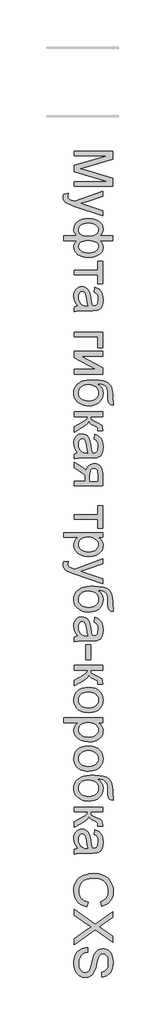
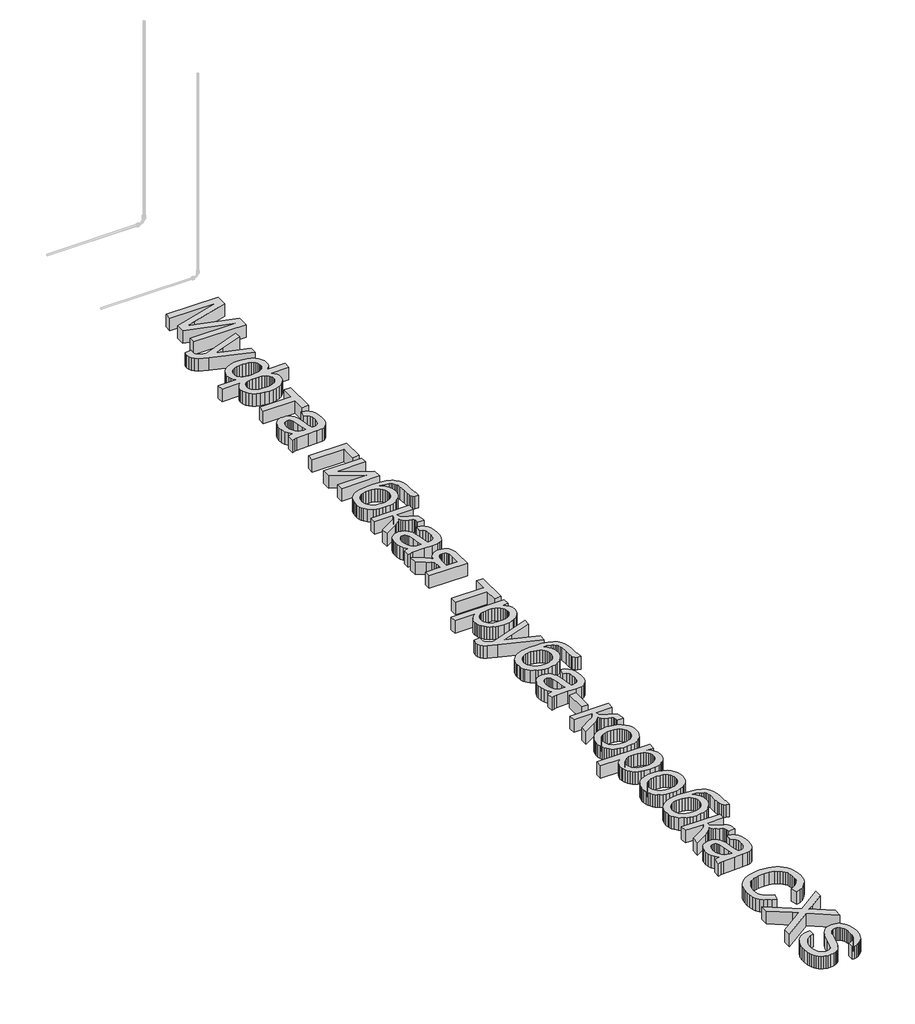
# One storey, part 15 of 33: 1 proxy.
"""IFC4 building model written with IfcOpenShell, lengths in millimetres."""

from ifc_helpers import new_model, si_unit, origin, origin_with_axes, place, context, project, spatial, polyline, outline, extrude, element, save

model = new_model("IFC4")

# Units and contexts
model_context = context("Model", 3, world=origin())
ifc_project = project(units=[si_unit("LENGTHUNIT", "METRE", prefix="MILLI")], contexts=[model_context])

# Site, building, storey
site = spatial("IfcSite", under=ifc_project)
building = spatial("IfcBuilding", under=site)
storey = spatial("IfcBuildingStorey", under=building, Name="Уровень 1", Elevation=0.0)

# Proxy
placement = place(None, origin())
element("IfcBuildingElementProxy", 1, Name="Надпись на модели 1", ObjectType="Надпись на модели 1", at=placement, inside=storey, context=model_context, shape_type="SweptSolid", body=[
    extrude(outline(polyline([(14524.4625724, -566.9517531), (15115.2318032, -566.9517531), (15115.2318032, -694.0190607), (14698.8375724, -814.8844454), (14611.8664186, -839.2594454), (14706.0491109, -865.6536761), (15115.2318032, -984.49983), (15115.2318032, -1111.5671377), (14524.4625724, -1111.5671377), (14524.4625724, -1037.7209838), (15041.3856493, -1037.7209838), (14524.4625724, -889.3075223), (14524.4625724, -789.2113684), (15041.3856493, -640.7979069), (14524.4625724, -640.7979069), (14524.4625724, -566.9517531)])), origin_with_axes(), (0.0, 0.0, 1.0), 150.0),
    extrude(outline(polyline([(14358.3087262, -1231.5671377), (14429.4144955, -1222.3363684), (14422.9241109, -1259.8363684), (14424.9613705, -1279.5599261), (14431.0731493, -1294.8844454), (14440.8267551, -1306.8195415), (14453.7894955, -1316.37483), (14508.1644955, -1336.5671377), (14526.0491109, -1342.3363684), (14958.3087262, -1185.4132915), (14958.3087262, -1263.2979069), (14717.4433416, -1346.5190607), (14621.0971878, -1375.5094454), (14706.1933416, -1404.49983), (14958.3087262, -1490.0286761), (14958.3087262, -1567.3363684), (14514.077957, -1416.3267531), (14417.7318032, -1377.0959838), (14386.9745916, -1357.0118492), (14365.6644955, -1334.2594454), (14353.2245916, -1307.8291569), (14349.077957, -1276.7113684), (14351.3856493, -1255.3291569), (14358.3087262, -1231.5671377)])), origin_with_axes(), (0.0, 0.0, 1.0), 150.0),
    extrude(outline(polyline([(15115.2318032, -1877.7209838), (15115.2318032, -1951.5671377), (14916.6260339, -1951.5671377), (14939.0358897, -1973.9769934), (14954.9193032, -1998.5142531), (14964.3844474, -2025.0707434), (14967.5394955, -2053.5382915), (14963.5280772, -2087.725491), (14951.4938224, -2118.171705), (14931.4367311, -2144.8769333), (14903.3568032, -2167.8411761), (14869.1921397, -2186.2982074), (14830.8808416, -2199.4818011), (14788.4229089, -2207.3919574), (14741.8183416, -2210.0286761), (14693.4875123, -2207.1891329), (14650.0334859, -2198.6705031), (14611.4562623, -2184.4727867), (14577.7558416, -2164.5959838), (14550.4015748, -2140.5004309), (14530.8628128, -2113.6464646), (14519.1395556, -2084.0340848), (14515.2318032, -2051.6632915), (14517.0346878, -2029.2714646), (14522.4433416, -2006.5190607), (14535.8928609, -1981.3147338), (14561.8183416, -1951.5671377), (14358.3087262, -1951.5671377), (14358.3087262, -1877.7209838), (14561.8183416, -1877.7209838), (14541.4818032, -1855.2570415), (14526.9144955, -1830.5575223), (14518.1524762, -1803.6945415), (14515.2318032, -1774.7402146), (14518.9637743, -1742.7570415), (14530.1596878, -1712.8652146), (14548.8195436, -1685.0647338), (14574.9433416, -1659.3555992), (14608.0172599, -1637.7750704), (14647.5274762, -1622.3604069), (14693.4739907, -1613.1116088), (14745.8568032, -1610.0286761), (14791.0461061, -1612.8186401), (14832.4313224, -1621.1885319), (14870.0124522, -1635.1383516), (14903.7894955, -1654.6680992), (14931.6801205, -1678.9123901), (14951.6019955, -1707.0058396), (14963.5551205, -1738.9484478), (14967.5394955, -1774.7402146), (14964.3844474, -1804.8303588), (14954.9193032, -1831.9277146), (14939.0358897, -1856.1765127), (14916.6260339, -1877.7209838), (15115.2318032, -1877.7209838)]), holes=[polyline([(14740.0875724, -1951.1344454), (14699.0403969, -1952.6714045), (14665.3219474, -1957.2822819), (14638.9322238, -1964.9670776), (14619.8712262, -1975.7257915), (14606.399171, -1988.8012122), (14596.7762743, -2003.4361281), (14591.0025363, -2019.6305391), (14589.077957, -2037.3844454), (14591.4442431, -2057.1125103), (14598.5431012, -2075.3351665), (14610.3745315, -2092.0524141), (14626.9385339, -2107.2642531), (14648.4875123, -2119.9159958), (14675.2738705, -2128.952955), (14707.2976085, -2134.3751305), (14744.5587262, -2136.1825223), (14779.8051205, -2134.514854), (14810.2558416, -2129.5118492), (14835.9108897, -2121.1735079), (14856.7702647, -2109.49983), (14872.9241109, -2095.2119694), (14884.4625724, -2079.03108), (14891.3856493, -2060.9571617), (14893.6933416, -2040.9902146), (14891.2909979, -2020.0181593), (14884.0839666, -2001.8135319), (14872.0722479, -1986.3763324), (14855.2558416, -1973.7065607), (14833.6437623, -1963.8312603), (14807.2450243, -1956.7774742), (14776.0596277, -1952.5452026), (14740.0875724, -1951.1344454)]), polyline([(14747.4433416, -1683.87483), (14708.2756734, -1685.7227867), (14675.0034378, -1691.2666569), (14647.6266349, -1700.5064406), (14626.1452647, -1713.4421377), (14609.9283176, -1729.1182194), (14598.3447839, -1746.5791569), (14591.3946637, -1765.8249502), (14589.077957, -1786.8555992), (14591.3811421, -1808.3414766), (14598.2906974, -1826.9337242), (14609.8066229, -1842.632342), (14625.9289186, -1855.43733), (14646.6575844, -1865.3757314), (14671.9926205, -1872.4745896), (14701.9340267, -1876.7339045), (14736.4818032, -1878.1536761), (14773.3282575, -1876.6617891), (14805.2618512, -1872.1861281), (14832.2825844, -1864.726693), (14854.390457, -1854.2834838), (14871.585469, -1840.8294574), (14883.8676205, -1824.3375704), (14891.2369113, -1804.8078228), (14893.6933416, -1782.2402146), (14891.2955051, -1761.4709838), (14884.1019955, -1742.7209838), (14872.1128128, -1725.9902146), (14855.327957, -1711.2786761), (14834.1981493, -1699.2894934), (14809.1741109, -1690.7257915), (14780.2558416, -1685.5875704), (14747.4433416, -1683.87483)])]), origin_with_axes(), (0.0, 0.0, 1.0), 150.0),
    extrude(outline(polyline([(14958.3087262, -2265.4132915), (14958.3087262, -2616.1825223), (14884.4625724, -2616.1825223), (14884.4625724, -2477.7209838), (14524.4625724, -2477.7209838), (14524.4625724, -2403.87483), (14884.4625724, -2403.87483), (14884.4625724, -2265.4132915), (14958.3087262, -2265.4132915)])), origin_with_axes(), (0.0, 0.0, 1.0), 150.0),
    extrude(outline(polyline([(14579.8471878, -2957.7209838), (14549.5947839, -2922.4385319), (14529.7991109, -2886.1104069), (14518.8736301, -2847.9072819), (14515.2318032, -2806.99983), (14517.422308, -2774.1197218), (14523.9938224, -2745.2870896), (14534.9463464, -2720.5019333), (14550.2798801, -2699.7642531), (14569.0208657, -2683.3895535), (14590.1957455, -2671.6933396), (14613.8045195, -2664.6756112), (14639.8471878, -2662.3363684), (14670.4601686, -2665.8700223), (14698.2606493, -2676.4709838), (14722.0587262, -2692.8231473), (14740.6644955, -2713.6104069), (14754.7269955, -2738.0394934), (14764.8952647, -2765.3171377), (14776.0010339, -2829.2113684), (14787.6837262, -2904.7161761), (14801.3856493, -2957.2882915), (14817.827957, -2957.7209838), (14850.7846878, -2952.6368492), (14862.9902166, -2946.2816809), (14872.3471878, -2937.3844454), (14881.6861301, -2922.0058396), (14888.3568032, -2903.2738684), (14893.6933416, -2855.74983), (14890.1416589, -2811.7594454), (14879.4866109, -2781.0382915), (14859.781082, -2760.0887723), (14829.077957, -2745.4132915), (14838.3087262, -2671.5671377), (14878.6933416, -2684.3856473), (14910.4241109, -2703.5142531), (14934.6909378, -2730.7378107), (14952.6837262, -2767.8411761), (14963.8255532, -2813.2197819), (14967.5394955, -2865.2690607), (14964.2582455, -2915.1909357), (14954.4144955, -2954.7642531), (14939.6128128, -2984.6019934), (14921.4577647, -3005.3171377), (14899.0118512, -3019.0551184), (14871.3375724, -3027.9613684), (14806.7221878, -3031.5671377), (14714.8471878, -3031.5671377), (14586.5539186, -3035.3171377), (14554.8411782, -3040.8700223), (14524.4625724, -3050.0286761), (14524.4625724, -2976.1825223), (14550.1356493, -2964.3555992), (14579.8471878, -2957.7209838)]), holes=[polyline([(14727.5394955, -2957.7209838), (14715.2438224, -2908.1055992), (14704.8952647, -2838.5863684), (14692.9241109, -2775.0527146), (14684.7390147, -2758.5202627), (14673.452957, -2746.2786761), (14659.9313224, -2738.7065607), (14645.0394955, -2736.1825223), (14623.0803609, -2741.6813204), (14605.0875724, -2758.1777146), (14593.0803609, -2785.3111281), (14589.077957, -2822.7209838), (14593.4950243, -2862.3844454), (14606.7462262, -2897.4325223), (14626.2714666, -2925.8459838), (14649.5106493, -2945.6055992), (14673.452957, -2954.3676184), (14706.6260339, -2957.2882915), (14727.5394955, -2957.7209838)])]), origin_with_axes(), (0.0, 0.0, 1.0), 150.0),
    extrude(outline(polyline([(14958.3087262, -3363.87483), (14958.3087262, -3603.87483), (14884.4625724, -3603.87483), (14884.4625724, -3437.7209838), (14524.4625724, -3437.7209838), (14524.4625724, -3363.87483), (14958.3087262, -3363.87483)])), origin_with_axes(), (0.0, 0.0, 1.0), 150.0),
    extrude(outline(polyline([(14958.3087262, -3659.2594454), (14958.3087262, -3733.1055992), (14627.4433416, -3733.1055992), (14958.3087262, -3914.5479069), (14958.3087262, -4010.0286761), (14524.4625724, -4010.0286761), (14524.4625724, -3936.1825223), (14853.3087262, -3936.1825223), (14524.4625724, -3755.8940607), (14524.4625724, -3659.2594454), (14958.3087262, -3659.2594454)])), origin_with_axes(), (0.0, 0.0, 1.0), 150.0),
    extrude(outline(polyline([(15124.4625724, -4425.4132915), (15124.4625724, -4490.0286761), (15089.3604089, -4483.0334838), (15066.8423801, -4470.9902146), (15053.5190628, -4454.2955031), (15046.0010339, -4433.3459838), (15042.5394955, -4399.1993492), (15041.3856493, -4342.9132915), (15037.1308416, -4267.8231473), (15031.812332, -4240.9196016), (15024.3664186, -4221.1104069), (15014.5767551, -4205.9932194), (15002.2269955, -4193.1656954), (14987.3171397, -4182.6278348), (14969.8471878, -4174.3796377), (14926.9745916, -4163.327955), (14873.3568032, -4158.5863684), (14914.6068032, -4188.2798781), (14944.0298801, -4222.5527146), (14961.6620916, -4261.4409357), (14967.5394955, -4304.9805992), (14963.8030171, -4345.2119694), (14952.593582, -4381.8195415), (14933.9111902, -4414.8033156), (14907.7558416, -4444.1632915), (14875.227296, -4468.2678588), (14837.4253128, -4485.4854069), (14794.3498921, -4495.8159357), (14746.0010339, -4499.2594454), (14709.0148561, -4497.5512122), (14675.5082455, -4492.4265127), (14645.4812022, -4483.8853468), (14618.9337262, -4471.9277146), (14574.9613705, -4442.0539165), (14542.2750724, -4407.0959838), (14530.4436421, -4386.6512723), (14521.9926205, -4362.8171377), (14516.9220075, -4335.59358), (14515.2318032, -4304.9805992), (14517.4087863, -4269.5674381), (14523.9397359, -4238.327955), (14534.8246517, -4211.2621497), (14550.0635339, -4188.3700223), (14568.6963464, -4168.7771737), (14589.7630532, -4151.609205), (14613.2636541, -4136.866116), (14639.1981493, -4124.5479069), (14671.3841469, -4114.8303588), (14713.6392551, -4107.8892531), (14765.9634738, -4103.7245896), (14828.3568032, -4102.3363684), (14906.1107094, -4105.8384718), (14970.0455051, -4116.3447819), (15020.1611902, -4133.8552987), (15040.0368663, -4145.2371347), (15056.4577647, -4158.3700223), (15082.1714065, -4190.1503708), (15100.5382936, -4229.4577627), (15111.5584258, -4276.2921978), (15115.2318032, -4330.6536761), (15116.890457, -4412.8652146), (15119.6128128, -4420.90608), (15124.4625724, -4425.4132915)]), holes=[polyline([(14748.3087262, -4425.4132915), (14778.8090267, -4423.4120896), (14806.4156974, -4417.4084838), (14831.1287383, -4407.4024742), (14852.9481493, -4393.3940607), (14870.774171, -4375.7438204), (14883.5070436, -4354.81233), (14891.1467671, -4330.5995896), (14893.6933416, -4303.1055992), (14891.0025363, -4274.4126906), (14882.9301205, -4249.1993492), (14869.476094, -4227.4655752), (14850.640457, -4209.2113684), (14827.3066229, -4194.7612482), (14800.3580051, -4184.4397338), (14769.7946037, -4178.2468252), (14735.6164186, -4176.1825223), (14702.1503729, -4178.4631713), (14672.8580051, -4185.3051184), (14647.7393152, -4196.7083636), (14626.7943032, -4212.6729069), (14610.2934017, -4231.9818011), (14598.5070436, -4253.4180992), (14591.4352287, -4276.9818011), (14589.077957, -4302.6729069), (14591.80482, -4328.7155752), (14599.9854089, -4352.1801184), (14613.6197238, -4373.0665367), (14632.7077647, -4391.37483), (14656.2940027, -4406.2666569), (14683.4229089, -4416.9036761), (14714.0944835, -4423.2858877), (14748.3087262, -4425.4132915)])]), origin_with_axes(), (0.0, 0.0, 1.0), 150.0),
    extrude(outline(polyline([(14958.3087262, -4591.5671377), (14958.3087262, -4665.4132915), (14773.6933416, -4665.4132915), (14777.0106493, -4695.4493492), (14786.9625724, -4714.8844454), (14812.9241109, -4732.0839646), (14864.2702647, -4755.4132915), (14906.2594474, -4774.2173781), (14930.9769955, -4789.0911761), (14944.4445436, -4802.9733877), (14952.6837262, -4818.8027146), (14956.9024762, -4840.7077627), (14958.3087262, -4872.8171377), (14958.3087262, -4886.9517531), (14884.0298801, -4886.9517531), (14884.4625724, -4867.0479069), (14882.515457, -4843.9709838), (14876.6741109, -4830.9902146), (14860.4120916, -4820.4613684), (14828.0683416, -4805.6055992), (14795.6705051, -4790.0106473), (14775.4962262, -4775.8219454), (14762.0286782, -4758.640455), (14749.7510339, -4734.0671377), (14739.3574041, -4757.46858), (14721.0130532, -4780.6536761), (14694.7179811, -4803.6224261), (14660.4721878, -4826.37483), (14524.4625724, -4905.4132915), (14524.4625724, -4821.4709838), (14657.5875724, -4744.0190607), (14693.0142551, -4723.1055992), (14713.9096878, -4705.0767531), (14724.1320436, -4686.8676184), (14727.5394955, -4665.4132915), (14524.4625724, -4665.4132915), (14524.4625724, -4591.5671377), (14958.3087262, -4591.5671377)])), origin_with_axes(), (0.0, 0.0, 1.0), 150.0),
    extrude(outline(polyline([(14579.8471878, -5228.4902146), (14549.5947839, -5193.2077627), (14529.7991109, -5156.8796377), (14518.8736301, -5118.6765127), (14515.2318032, -5077.7690607), (14517.422308, -5044.8889526), (14523.9938224, -5016.0563204), (14534.9463464, -4991.2711641), (14550.2798801, -4970.5334838), (14569.0208657, -4954.1587843), (14590.1957455, -4942.4625704), (14613.8045195, -4935.444842), (14639.8471878, -4933.1055992), (14670.4601686, -4936.6392531), (14698.2606493, -4947.2402146), (14722.0587262, -4963.5923781), (14740.6644955, -4984.3796377), (14754.7269955, -5008.8087242), (14764.8952647, -5036.0863684), (14776.0010339, -5099.9805992), (14787.6837262, -5175.4854069), (14801.3856493, -5228.0575223), (14817.827957, -5228.4902146), (14850.7846878, -5223.40608), (14862.9902166, -5217.0509117), (14872.3471878, -5208.1536761), (14881.6861301, -5192.7750704), (14888.3568032, -5174.0430992), (14893.6933416, -5126.5190607), (14890.1416589, -5082.5286761), (14879.4866109, -5051.8075223), (14859.781082, -5030.8580031), (14829.077957, -5016.1825223), (14838.3087262, -4942.3363684), (14878.6933416, -4955.1548781), (14910.4241109, -4974.2834838), (14934.6909378, -5001.5070415), (14952.6837262, -5038.6104069), (14963.8255532, -5083.9890127), (14967.5394955, -5136.0382915), (14964.2582455, -5185.9601665), (14954.4144955, -5225.5334838), (14939.6128128, -5255.3712242), (14921.4577647, -5276.0863684), (14899.0118512, -5289.8243492), (14871.3375724, -5298.7305992), (14806.7221878, -5302.3363684), (14714.8471878, -5302.3363684), (14586.5539186, -5306.0863684), (14554.8411782, -5311.6392531), (14524.4625724, -5320.7979069), (14524.4625724, -5246.9517531), (14550.1356493, -5235.12483), (14579.8471878, -5228.4902146)]), holes=[polyline([(14727.5394955, -5228.4902146), (14715.2438224, -5178.87483), (14704.8952647, -5109.3555992), (14692.9241109, -5045.8219454), (14684.7390147, -5029.2894934), (14673.452957, -5017.0479069), (14659.9313224, -5009.4757915), (14645.0394955, -5006.9517531), (14623.0803609, -5012.4505511), (14605.0875724, -5028.9469454), (14593.0803609, -5056.0803588), (14589.077957, -5093.4902146), (14593.4950243, -5133.1536761), (14606.7462262, -5168.2017531), (14626.2714666, -5196.6152146), (14649.5106493, -5216.37483), (14673.452957, -5225.1368492), (14706.6260339, -5228.0575223), (14727.5394955, -5228.4902146)])]), origin_with_axes(), (0.0, 0.0, 1.0), 150.0),
    extrude(outline(polyline([(14958.3087262, -5736.1825223), (14524.4625724, -5736.1825223), (14524.4625724, -5662.3363684), (14690.6164186, -5662.3363684), (14690.6164186, -5622.0959838), (14688.2726686, -5590.0046377), (14681.2414186, -5567.2882915), (14660.796707, -5545.4012723), (14618.2125724, -5515.7979069), (14524.4625724, -5456.9517531), (14524.4625724, -5371.5671377), (14643.0202647, -5445.7017531), (14685.5683416, -5478.4421377), (14697.9721878, -5493.8387723), (14704.4625724, -5508.5863684), (14710.4571637, -5481.4709838), (14719.9313224, -5458.1055992), (14732.8850484, -5438.4902146), (14749.3183416, -5422.62483), (14768.1765147, -5410.3832434), (14788.4048801, -5401.6392531), (14810.0034378, -5396.3928588), (14832.9721878, -5394.6440607), (14859.5647359, -5397.0328829), (14883.5250724, -5404.1993492), (14904.8531974, -5416.1434598), (14923.5491109, -5432.8652146), (14938.7564426, -5454.1122098), (14949.6188224, -5479.6320415), (14956.1362503, -5509.4247098), (14958.3087262, -5543.4902146), (14958.3087262, -5736.1825223)]), holes=[polyline([(14884.4625724, -5662.3363684), (14884.4625724, -5564.9805992), (14880.1897359, -5514.6981473), (14874.8486902, -5497.710467), (14867.3712262, -5486.1584838), (14848.8195436, -5472.9072819), (14827.3471878, -5468.4902146), (14812.1984498, -5470.117318), (14799.2041589, -5474.9986281), (14788.3643152, -5483.1341449), (14779.6789186, -5494.5238684), (14773.0217671, -5510.0512122), (14768.2666589, -5530.5995896), (14764.4625724, -5586.7594454), (14764.4625724, -5662.3363684), (14884.4625724, -5662.3363684)])]), origin_with_axes(), (0.0, 0.0, 1.0), 150.0),
    extrude(outline(polyline([(14958.3087262, -6040.7979069), (14958.3087262, -6391.5671377), (14884.4625724, -6391.5671377), (14884.4625724, -6253.1055992), (14524.4625724, -6253.1055992), (14524.4625724, -6179.2594454), (14884.4625724, -6179.2594454), (14884.4625724, -6040.7979069), (14958.3087262, -6040.7979069)])), origin_with_axes(), (0.0, 0.0, 1.0), 150.0),
    extrude(outline(polyline([(14358.3087262, -6456.1825223), (14958.3087262, -6456.1825223), (14958.3087262, -6530.0286761), (14885.9048801, -6530.0286761), (14921.6200243, -6554.1152146), (14947.1308416, -6581.0863684), (14962.437332, -6612.5286761), (14967.5394955, -6650.0286761), (14965.7546397, -6675.7828829), (14960.4000724, -6699.96858), (14951.4757936, -6722.5857675), (14938.9818032, -6743.6344454), (14923.2426205, -6762.6548781), (14904.5827647, -6779.18733), (14883.0022359, -6793.2318011), (14858.5010339, -6804.7882915), (14804.0899762, -6820.2570415), (14744.702957, -6825.4132915), (14681.5479089, -6819.5899742), (14652.4718873, -6812.3108276), (14625.0635339, -6802.1200223), (14600.0394955, -6789.1572819), (14578.1164186, -6773.56233), (14559.2943032, -6755.3351665), (14543.5731493, -6734.4757915), (14531.1738104, -6712.007342), (14522.3171397, -6688.952955), (14517.0031373, -6665.3126305), (14515.2318032, -6641.0863684), (14519.9733897, -6607.1380511), (14534.1981493, -6576.8315607), (14555.6705051, -6550.8880511), (14582.1548801, -6530.0286761), (14358.3087262, -6530.0286761), (14358.3087262, -6456.1825223)]), holes=[polyline([(14737.9241109, -6530.0286761), (14702.3351686, -6532.0253708), (14671.7221878, -6538.015455), (14646.0851686, -6547.9989285), (14625.4241109, -6561.9757915), (14609.5226686, -6578.8012122), (14598.1644955, -6597.3303588), (14591.3495916, -6617.5632314), (14589.077957, -6639.49983), (14591.4307214, -6661.7519333), (14598.4890147, -6682.3543973), (14610.2528368, -6701.3072218), (14626.7221878, -6718.6104069), (14648.1314426, -6733.0289766), (14674.7149762, -6743.327955), (14706.4727887, -6749.507342), (14743.4048801, -6751.5671377), (14778.687332, -6749.5569213), (14809.2462262, -6743.5262723), (14835.0815628, -6733.4751906), (14856.1933416, -6719.4036761), (14872.5995916, -6702.5376906), (14884.3183416, -6684.1031954), (14891.3495916, -6664.1001906), (14893.6933416, -6642.5286761), (14891.2008537, -6621.0247699), (14883.7233897, -6600.7918973), (14871.2609498, -6581.8300583), (14853.8135339, -6564.1392531), (14831.6155171, -6549.2158756), (14804.9012743, -6538.5563204), (14773.6708056, -6532.1605872), (14737.9241109, -6530.0286761)])]), origin_with_axes(), (0.0, 0.0, 1.0), 150.0),
    extrude(outline(polyline([(14358.3087262, -6908.4902146), (14429.4144955, -6899.2594454), (14422.9241109, -6936.7594454), (14424.9613705, -6956.4830031), (14431.0731493, -6971.8075223), (14440.8267551, -6983.7426184), (14453.7894955, -6993.2979069), (14508.1644955, -7013.4902146), (14526.0491109, -7019.2594454), (14958.3087262, -6862.3363684), (14958.3087262, -6940.2209838), (14717.4433416, -7023.4421377), (14621.0971878, -7052.4325223), (14706.1933416, -7081.4229069), (14958.3087262, -7166.9517531), (14958.3087262, -7244.2594454), (14514.077957, -7093.24983), (14417.7318032, -7054.0190607), (14386.9745916, -7033.9349261), (14365.6644955, -7011.1825223), (14353.2245916, -6984.7522338), (14349.077957, -6953.6344454), (14351.3856493, -6932.2522338), (14358.3087262, -6908.4902146)])), origin_with_axes(), (0.0, 0.0, 1.0), 150.0),
    extrude(outline(polyline([(15124.4625724, -7610.0286761), (15124.4625724, -7674.6440607), (15089.3604089, -7667.6488684), (15066.8423801, -7655.6055992), (15053.5190628, -7638.9108877), (15046.0010339, -7617.9613684), (15042.5394955, -7583.8147338), (15041.3856493, -7527.5286761), (15037.1308416, -7452.4385319), (15031.812332, -7425.5349862), (15024.3664186, -7405.7257915), (15014.5767551, -7390.608604), (15002.2269955, -7377.78108), (14987.3171397, -7367.2432194), (14969.8471878, -7358.9950223), (14926.9745916, -7347.9433396), (14873.3568032, -7343.2017531), (14914.6068032, -7372.8952627), (14944.0298801, -7407.1680992), (14961.6620916, -7446.0563204), (14967.5394955, -7489.5959838), (14963.8030171, -7529.827354), (14952.593582, -7566.4349261), (14933.9111902, -7599.4187002), (14907.7558416, -7628.7786761), (14875.227296, -7652.8832434), (14837.4253128, -7670.1007915), (14794.3498921, -7680.4313204), (14746.0010339, -7683.87483), (14709.0148561, -7682.1665968), (14675.5082455, -7677.0418973), (14645.4812022, -7668.5007314), (14618.9337262, -7656.5430992), (14574.9613705, -7626.6693011), (14542.2750724, -7591.7113684), (14530.4436421, -7571.2666569), (14521.9926205, -7547.4325223), (14516.9220075, -7520.2089646), (14515.2318032, -7489.5959838), (14517.4087863, -7454.1828228), (14523.9397359, -7422.9433396), (14534.8246517, -7395.8775343), (14550.0635339, -7372.9854069), (14568.6963464, -7353.3925583), (14589.7630532, -7336.2245896), (14613.2636541, -7321.4815006), (14639.1981493, -7309.1632915), (14671.3841469, -7299.4457434), (14713.6392551, -7292.5046377), (14765.9634738, -7288.3399742), (14828.3568032, -7286.9517531), (14906.1107094, -7290.4538564), (14970.0455051, -7300.9601665), (15020.1611902, -7318.4706833), (15040.0368663, -7329.8525193), (15056.4577647, -7342.9854069), (15082.1714065, -7374.7657555), (15100.5382936, -7414.0731473), (15111.5584258, -7460.9075824), (15115.2318032, -7515.2690607), (15116.890457, -7597.4805992), (15119.6128128, -7605.5214646), (15124.4625724, -7610.0286761)]), holes=[polyline([(14748.3087262, -7610.0286761), (14778.8090267, -7608.0274742), (14806.4156974, -7602.0238684), (14831.1287383, -7592.0178588), (14852.9481493, -7578.0094454), (14870.774171, -7560.359205), (14883.5070436, -7539.4277146), (14891.1467671, -7515.2149742), (14893.6933416, -7487.7209838), (14891.0025363, -7459.0280752), (14882.9301205, -7433.8147338), (14869.476094, -7412.0809598), (14850.640457, -7393.8267531), (14827.3066229, -7379.3766329), (14800.3580051, -7369.0551184), (14769.7946037, -7362.8622098), (14735.6164186, -7360.7979069), (14702.1503729, -7363.0785559), (14672.8580051, -7369.9205031), (14647.7393152, -7381.3237482), (14626.7943032, -7397.2882915), (14610.2934017, -7416.5971857), (14598.5070436, -7438.0334838), (14591.4352287, -7461.5971857), (14589.077957, -7487.2882915), (14591.80482, -7513.3309598), (14599.9854089, -7536.7955031), (14613.6197238, -7557.6819213), (14632.7077647, -7575.9902146), (14656.2940027, -7590.8820415), (14683.4229089, -7601.5190607), (14714.0944835, -7607.9012723), (14748.3087262, -7610.0286761)])]), origin_with_axes(), (0.0, 0.0, 1.0), 150.0),
    extrude(outline(polyline([(14579.8471878, -8053.1055992), (14549.5947839, -8017.8231473), (14529.7991109, -7981.4950223), (14518.8736301, -7943.2918973), (14515.2318032, -7902.3844454), (14517.422308, -7869.5043372), (14523.9938224, -7840.671705), (14534.9463464, -7815.8865487), (14550.2798801, -7795.1488684), (14569.0208657, -7778.7741689), (14590.1957455, -7767.077955), (14613.8045195, -7760.0602266), (14639.8471878, -7757.7209838), (14670.4601686, -7761.2546377), (14698.2606493, -7771.8555992), (14722.0587262, -7788.2077627), (14740.6644955, -7808.9950223), (14754.7269955, -7833.4241088), (14764.8952647, -7860.7017531), (14776.0010339, -7924.5959838), (14787.6837262, -8000.1007915), (14801.3856493, -8052.6729069), (14817.827957, -8053.1055992), (14850.7846878, -8048.0214646), (14862.9902166, -8041.6662963), (14872.3471878, -8032.7690607), (14881.6861301, -8017.390455), (14888.3568032, -7998.6584838), (14893.6933416, -7951.1344454), (14890.1416589, -7907.1440607), (14879.4866109, -7876.4229069), (14859.781082, -7855.4733877), (14829.077957, -7840.7979069), (14838.3087262, -7766.9517531), (14878.6933416, -7779.7702627), (14910.4241109, -7798.8988684), (14934.6909378, -7826.1224261), (14952.6837262, -7863.2257915), (14963.8255532, -7908.6043973), (14967.5394955, -7960.6536761), (14964.2582455, -8010.5755511), (14954.4144955, -8050.1488684), (14939.6128128, -8079.9866088), (14921.4577647, -8100.7017531), (14899.0118512, -8114.4397338), (14871.3375724, -8123.3459838), (14806.7221878, -8126.9517531), (14714.8471878, -8126.9517531), (14586.5539186, -8130.7017531), (14554.8411782, -8136.2546377), (14524.4625724, -8145.4132915), (14524.4625724, -8071.5671377), (14550.1356493, -8059.7402146), (14579.8471878, -8053.1055992)]), holes=[polyline([(14727.5394955, -8053.1055992), (14715.2438224, -8003.4902146), (14704.8952647, -7933.9709838), (14692.9241109, -7870.43733), (14684.7390147, -7853.9048781), (14673.452957, -7841.6632915), (14659.9313224, -7834.0911761), (14645.0394955, -7831.5671377), (14623.0803609, -7837.0659357), (14605.0875724, -7853.56233), (14593.0803609, -7880.6957434), (14589.077957, -7918.1055992), (14593.4950243, -7957.7690607), (14606.7462262, -7992.8171377), (14626.2714666, -8021.2305992), (14649.5106493, -8040.9902146), (14673.452957, -8049.7522338), (14706.6260339, -8052.6729069), (14727.5394955, -8053.1055992)])]), origin_with_axes(), (0.0, 0.0, 1.0), 150.0),
    extrude(outline(polyline([(14699.8471878, -8191.5671377), (14773.6933416, -8191.5671377), (14773.6933416, -8422.3363684), (14699.8471878, -8422.3363684), (14699.8471878, -8191.5671377)])), origin_with_axes(), (0.0, 0.0, 1.0), 150.0),
    extrude(outline(polyline([(14958.3087262, -8505.4132915), (14958.3087262, -8579.2594454), (14773.6933416, -8579.2594454), (14777.0106493, -8609.2955031), (14786.9625724, -8628.7305992), (14812.9241109, -8645.9301184), (14864.2702647, -8669.2594454), (14906.2594474, -8688.0635319), (14930.9769955, -8702.93733), (14944.4445436, -8716.8195415), (14952.6837262, -8732.6488684), (14956.9024762, -8754.5539165), (14958.3087262, -8786.6632915), (14958.3087262, -8800.7979069), (14884.0298801, -8800.7979069), (14884.4625724, -8780.8940607), (14882.515457, -8757.8171377), (14876.6741109, -8744.8363684), (14860.4120916, -8734.3075223), (14828.0683416, -8719.4517531), (14795.6705051, -8703.8568011), (14775.4962262, -8689.6680992), (14762.0286782, -8672.4866088), (14749.7510339, -8647.9132915), (14739.3574041, -8671.3147338), (14721.0130532, -8694.49983), (14694.7179811, -8717.46858), (14660.4721878, -8740.2209838), (14524.4625724, -8819.2594454), (14524.4625724, -8735.3171377), (14657.5875724, -8657.8652146), (14693.0142551, -8636.9517531), (14713.9096878, -8618.9229069), (14724.1320436, -8600.7137723), (14727.5394955, -8579.2594454), (14524.4625724, -8579.2594454), (14524.4625724, -8505.4132915), (14958.3087262, -8505.4132915)])), origin_with_axes(), (0.0, 0.0, 1.0), 150.0),
    extrude(outline(polyline([(14741.3856493, -8846.9517531), (14797.5725484, -8850.9451425), (14845.9890147, -8862.9253107), (14886.6350484, -8882.8922579), (14919.5106493, -8910.8459838), (14940.5232695, -8938.9890127), (14955.5322839, -8970.0527146), (14964.5376926, -9004.0370896), (14967.5394955, -9040.9421377), (14963.8841469, -9081.6828228), (14952.9181012, -9118.5202627), (14934.6413585, -9151.4544574), (14909.0539186, -9180.4854069), (14877.0211662, -9204.179818), (14839.4084859, -9221.1043973), (14796.2158777, -9231.2591449), (14747.4433416, -9234.6440607), (14707.9150964, -9233.1476665), (14672.8399762, -9228.6584838), (14642.2179811, -9221.1765127), (14616.0491109, -9210.7017531), (14593.445445, -9197.3649141), (14573.5190628, -9181.296705), (14556.2699642, -9162.4971256), (14541.6981493, -9140.9661761), (14530.1191229, -9117.5421978), (14521.8483897, -9093.0635319), (14516.8859498, -9067.5301785), (14515.2318032, -9040.9421377), (14518.8736301, -8999.6065006), (14529.7991109, -8962.4265127), (14548.0082455, -8929.4021737), (14573.5010339, -8900.5334838), (14605.8447839, -8877.0914766), (14644.6068032, -8860.3471857), (14689.7870916, -8850.3006112), (14741.3856493, -8846.9517531)]), holes=[polyline([(14741.5298801, -8920.7979069), (14705.71107, -8922.9343252), (14674.6969474, -8929.34358), (14648.4875123, -8940.0256713), (14627.0827647, -8954.9805992), (14610.4556613, -8973.171705), (14598.5791589, -8993.56233), (14591.4532575, -9016.1524742), (14589.077957, -9040.9421377), (14591.4667791, -9065.6055992), (14598.6332455, -9088.1055992), (14610.5773561, -9108.4421377), (14627.2991109, -9126.6152146), (14648.9156974, -9141.5701425), (14675.5443032, -9152.2522338), (14707.1849282, -9158.6614886), (14743.8375724, -9160.7979069), (14778.5205652, -9158.647967), (14808.7233897, -9152.1981473), (14834.446046, -9141.4484478), (14855.6885339, -9126.3988684), (14872.3156373, -9108.1581833), (14884.1921397, -9087.8351665), (14891.3180412, -9065.429818), (14893.6933416, -9040.9421377), (14891.3270556, -9016.1524742), (14884.2281974, -8993.56233), (14872.3967671, -8973.171705), (14855.8327647, -8954.9805992), (14834.4911181, -8940.0256713), (14808.3267551, -8929.34358), (14777.3396758, -8922.9343252), (14741.5298801, -8920.7979069)])]), origin_with_axes(), (0.0, 0.0, 1.0), 150.0),
    extrude(outline(polyline([(14358.3087262, -9317.7209838), (14958.3087262, -9317.7209838), (14958.3087262, -9391.5671377), (14885.9048801, -9391.5671377), (14921.6200243, -9415.6536761), (14947.1308416, -9442.62483), (14962.437332, -9474.0671377), (14967.5394955, -9511.5671377), (14965.7546397, -9537.3213444), (14960.4000724, -9561.5070415), (14951.4757936, -9584.124229), (14938.9818032, -9605.1729069), (14923.2426205, -9624.1933396), (14904.5827647, -9640.7257915), (14883.0022359, -9654.7702627), (14858.5010339, -9666.3267531), (14804.0899762, -9681.7955031), (14744.702957, -9686.9517531), (14681.5479089, -9681.1284357), (14652.4718873, -9673.8492891), (14625.0635339, -9663.6584838), (14600.0394955, -9650.6957434), (14578.1164186, -9635.1007915), (14559.2943032, -9616.8736281), (14543.5731493, -9596.0142531), (14531.1738104, -9573.5458035), (14522.3171397, -9550.4914165), (14517.0031373, -9526.851092), (14515.2318032, -9502.62483), (14519.9733897, -9468.6765127), (14534.1981493, -9438.3700223), (14555.6705051, -9412.4265127), (14582.1548801, -9391.5671377), (14358.3087262, -9391.5671377), (14358.3087262, -9317.7209838)]), holes=[polyline([(14737.9241109, -9391.5671377), (14702.3351686, -9393.5638324), (14671.7221878, -9399.5539165), (14646.0851686, -9409.5373901), (14625.4241109, -9423.5142531), (14609.5226686, -9440.3396737), (14598.1644955, -9458.8688204), (14591.3495916, -9479.101693), (14589.077957, -9501.0382915), (14591.4307214, -9523.2903949), (14598.4890147, -9543.8928588), (14610.2528368, -9562.8456833), (14626.7221878, -9580.1488684), (14648.1314426, -9594.5674381), (14674.7149762, -9604.8664165), (14706.4727887, -9611.0458035), (14743.4048801, -9613.1055992), (14778.687332, -9611.0953829), (14809.2462262, -9605.0647338), (14835.0815628, -9595.0136521), (14856.1933416, -9580.9421377), (14872.5995916, -9564.0761521), (14884.3183416, -9545.6416569), (14891.3495916, -9525.6386521), (14893.6933416, -9504.0671377), (14891.2008537, -9482.5632314), (14883.7233897, -9462.3303588), (14871.2609498, -9443.3685199), (14853.8135339, -9425.6777146), (14831.6155171, -9410.7543372), (14804.9012743, -9400.0947819), (14773.6708056, -9393.6990487), (14737.9241109, -9391.5671377)])]), origin_with_axes(), (0.0, 0.0, 1.0), 150.0),
    extrude(outline(polyline([(14741.3856493, -9751.5671377), (14797.5725484, -9755.5605271), (14845.9890147, -9767.5406954), (14886.6350484, -9787.5076425), (14919.5106493, -9815.4613684), (14940.5232695, -9843.6043973), (14955.5322839, -9874.6680992), (14964.5376926, -9908.6524742), (14967.5394955, -9945.5575223), (14963.8841469, -9986.2982074), (14952.9181012, -10023.1356473), (14934.6413585, -10056.069842), (14909.0539186, -10085.1007915), (14877.0211662, -10108.7952026), (14839.4084859, -10125.7197819), (14796.2158777, -10135.8745295), (14747.4433416, -10139.2594454), (14707.9150964, -10137.7630511), (14672.8399762, -10133.2738684), (14642.2179811, -10125.7918973), (14616.0491109, -10115.3171377), (14593.445445, -10101.9802987), (14573.5190628, -10085.9120896), (14556.2699642, -10067.1125103), (14541.6981493, -10045.5815607), (14530.1191229, -10022.1575824), (14521.8483897, -9997.6789165), (14516.8859498, -9972.1455631), (14515.2318032, -9945.5575223), (14518.8736301, -9904.2218853), (14529.7991109, -9867.0418973), (14548.0082455, -9834.0175583), (14573.5010339, -9805.1488684), (14605.8447839, -9781.7068612), (14644.6068032, -9764.9625704), (14689.7870916, -9754.9159958), (14741.3856493, -9751.5671377)]), holes=[polyline([(14741.5298801, -9825.4132915), (14705.71107, -9827.5497098), (14674.6969474, -9833.9589646), (14648.4875123, -9844.6410559), (14627.0827647, -9859.5959838), (14610.4556613, -9877.7870896), (14598.5791589, -9898.1777146), (14591.4532575, -9920.7678588), (14589.077957, -9945.5575223), (14591.4667791, -9970.2209838), (14598.6332455, -9992.7209838), (14610.5773561, -10013.0575223), (14627.2991109, -10031.2305992), (14648.9156974, -10046.1855271), (14675.5443032, -10056.8676184), (14707.1849282, -10063.2768732), (14743.8375724, -10065.4132915), (14778.5205652, -10063.2633516), (14808.7233897, -10056.8135319), (14834.446046, -10046.0638324), (14855.6885339, -10031.0142531), (14872.3156373, -10012.773568), (14884.1921397, -9992.4505511), (14891.3180412, -9970.0452026), (14893.6933416, -9945.5575223), (14891.3270556, -9920.7678588), (14884.2281974, -9898.1777146), (14872.3967671, -9877.7870896), (14855.8327647, -9859.5959838), (14834.4911181, -9844.6410559), (14808.3267551, -9833.9589646), (14777.3396758, -9827.5497098), (14741.5298801, -9825.4132915)])]), origin_with_axes(), (0.0, 0.0, 1.0), 150.0),
    extrude(outline(polyline([(15124.4625724, -10526.9517531), (15124.4625724, -10591.5671377), (15089.3604089, -10584.5719454), (15066.8423801, -10572.5286761), (15053.5190628, -10555.8339646), (15046.0010339, -10534.8844454), (15042.5394955, -10500.7378107), (15041.3856493, -10444.4517531), (15037.1308416, -10369.3616088), (15031.812332, -10342.4580631), (15024.3664186, -10322.6488684), (15014.5767551, -10307.5316809), (15002.2269955, -10294.7041569), (14987.3171397, -10284.1662963), (14969.8471878, -10275.9180992), (14926.9745916, -10264.8664165), (14873.3568032, -10260.12483), (14914.6068032, -10289.8183396), (14944.0298801, -10324.0911761), (14961.6620916, -10362.9793973), (14967.5394955, -10406.5190607), (14963.8030171, -10446.7504309), (14952.593582, -10483.3580031), (14933.9111902, -10516.3417771), (14907.7558416, -10545.7017531), (14875.227296, -10569.8063204), (14837.4253128, -10587.0238684), (14794.3498921, -10597.3543973), (14746.0010339, -10600.7979069), (14709.0148561, -10599.0896737), (14675.5082455, -10593.9649742), (14645.4812022, -10585.4238083), (14618.9337262, -10573.4661761), (14574.9613705, -10543.5923781), (14542.2750724, -10508.6344454), (14530.4436421, -10488.1897338), (14521.9926205, -10464.3555992), (14516.9220075, -10437.1320415), (14515.2318032, -10406.5190607), (14517.4087863, -10371.1058997), (14523.9397359, -10339.8664165), (14534.8246517, -10312.8006112), (14550.0635339, -10289.9084838), (14568.6963464, -10270.3156353), (14589.7630532, -10253.1476665), (14613.2636541, -10238.4045776), (14639.1981493, -10226.0863684), (14671.3841469, -10216.3688204), (14713.6392551, -10209.4277146), (14765.9634738, -10205.2630511), (14828.3568032, -10203.87483), (14906.1107094, -10207.3769333), (14970.0455051, -10217.8832434), (15020.1611902, -10235.3937603), (15040.0368663, -10246.7755962), (15056.4577647, -10259.9084838), (15082.1714065, -10291.6888324), (15100.5382936, -10330.9962242), (15111.5584258, -10377.8306593), (15115.2318032, -10432.1921377), (15116.890457, -10514.4036761), (15119.6128128, -10522.4445415), (15124.4625724, -10526.9517531)]), holes=[polyline([(14748.3087262, -10526.9517531), (14778.8090267, -10524.9505511), (14806.4156974, -10518.9469454), (14831.1287383, -10508.9409357), (14852.9481493, -10494.9325223), (14870.774171, -10477.2822819), (14883.5070436, -10456.3507915), (14891.1467671, -10432.1380511), (14893.6933416, -10404.6440607), (14891.0025363, -10375.9511521), (14882.9301205, -10350.7378107), (14869.476094, -10329.0040367), (14850.640457, -10310.74983), (14827.3066229, -10296.2997098), (14800.3580051, -10285.9781954), (14769.7946037, -10279.7852867), (14735.6164186, -10277.7209838), (14702.1503729, -10280.0016329), (14672.8580051, -10286.84358), (14647.7393152, -10298.2468252), (14626.7943032, -10314.2113684), (14610.2934017, -10333.5202627), (14598.5070436, -10354.9565607), (14591.4352287, -10378.5202627), (14589.077957, -10404.2113684), (14591.80482, -10430.2540367), (14599.9854089, -10453.71858), (14613.6197238, -10474.6049982), (14632.7077647, -10492.9132915), (14656.2940027, -10507.8051184), (14683.4229089, -10518.4421377), (14714.0944835, -10524.8243492), (14748.3087262, -10526.9517531)])]), origin_with_axes(), (0.0, 0.0, 1.0), 150.0),
    extrude(outline(polyline([(14958.3087262, -10693.1055992), (14958.3087262, -10766.9517531), (14773.6933416, -10766.9517531), (14777.0106493, -10796.9878107), (14786.9625724, -10816.4229069), (14812.9241109, -10833.6224261), (14864.2702647, -10856.9517531), (14906.2594474, -10875.7558396), (14930.9769955, -10890.6296377), (14944.4445436, -10904.5118492), (14952.6837262, -10920.3411761), (14956.9024762, -10942.2462242), (14958.3087262, -10974.3555992), (14958.3087262, -10988.4902146), (14884.0298801, -10988.4902146), (14884.4625724, -10968.5863684), (14882.515457, -10945.5094454), (14876.6741109, -10932.5286761), (14860.4120916, -10921.99983), (14828.0683416, -10907.1440607), (14795.6705051, -10891.5491088), (14775.4962262, -10877.3604069), (14762.0286782, -10860.1789165), (14749.7510339, -10835.6055992), (14739.3574041, -10859.0070415), (14721.0130532, -10882.1921377), (14694.7179811, -10905.1608877), (14660.4721878, -10927.9132915), (14524.4625724, -11006.9517531), (14524.4625724, -10923.0094454), (14657.5875724, -10845.5575223), (14693.0142551, -10824.6440607), (14713.9096878, -10806.6152146), (14724.1320436, -10788.40608), (14727.5394955, -10766.9517531), (14524.4625724, -10766.9517531), (14524.4625724, -10693.1055992), (14958.3087262, -10693.1055992)])), origin_with_axes(), (0.0, 0.0, 1.0), 150.0),
    extrude(outline(polyline([(14579.8471878, -11330.0286761), (14549.5947839, -11294.7462242), (14529.7991109, -11258.4180992), (14518.8736301, -11220.2149742), (14515.2318032, -11179.3075223), (14517.422308, -11146.4274141), (14523.9938224, -11117.5947819), (14534.9463464, -11092.8096256), (14550.2798801, -11072.0719454), (14569.0208657, -11055.6972458), (14590.1957455, -11044.0010319), (14613.8045195, -11036.9833035), (14639.8471878, -11034.6440607), (14670.4601686, -11038.1777146), (14698.2606493, -11048.7786761), (14722.0587262, -11065.1308396), (14740.6644955, -11085.9180992), (14754.7269955, -11110.3471857), (14764.8952647, -11137.62483), (14776.0010339, -11201.5190607), (14787.6837262, -11277.0238684), (14801.3856493, -11329.5959838), (14817.827957, -11330.0286761), (14850.7846878, -11324.9445415), (14862.9902166, -11318.5893732), (14872.3471878, -11309.6921377), (14881.6861301, -11294.3135319), (14888.3568032, -11275.5815607), (14893.6933416, -11228.0575223), (14890.1416589, -11184.0671377), (14879.4866109, -11153.3459838), (14859.781082, -11132.3964646), (14829.077957, -11117.7209838), (14838.3087262, -11043.87483), (14878.6933416, -11056.6933396), (14910.4241109, -11075.8219454), (14934.6909378, -11103.0455031), (14952.6837262, -11140.1488684), (14963.8255532, -11185.5274742), (14967.5394955, -11237.5767531), (14964.2582455, -11287.4986281), (14954.4144955, -11327.0719454), (14939.6128128, -11356.9096857), (14921.4577647, -11377.62483), (14899.0118512, -11391.3628107), (14871.3375724, -11400.2690607), (14806.7221878, -11403.87483), (14714.8471878, -11403.87483), (14586.5539186, -11407.62483), (14554.8411782, -11413.1777146), (14524.4625724, -11422.3363684), (14524.4625724, -11348.4902146), (14550.1356493, -11336.6632915), (14579.8471878, -11330.0286761)]), holes=[polyline([(14727.5394955, -11330.0286761), (14715.2438224, -11280.4132915), (14704.8952647, -11210.8940607), (14692.9241109, -11147.3604069), (14684.7390147, -11130.827955), (14673.452957, -11118.5863684), (14659.9313224, -11111.0142531), (14645.0394955, -11108.4902146), (14623.0803609, -11113.9890127), (14605.0875724, -11130.4854069), (14593.0803609, -11157.6188204), (14589.077957, -11195.0286761), (14593.4950243, -11234.6921377), (14606.7462262, -11269.7402146), (14626.2714666, -11298.1536761), (14649.5106493, -11317.9132915), (14673.452957, -11326.6753107), (14706.6260339, -11329.5959838), (14727.5394955, -11330.0286761)])]), origin_with_axes(), (0.0, 0.0, 1.0), 150.0),
    extrude(outline(polyline([(14734.4625724, -12160.7979069), (14715.4241109, -12234.6440607), (14669.5001325, -12220.0316809), (14629.3724282, -12200.5695415), (14595.0409979, -12176.2576425), (14566.5058416, -12147.0959838), (14544.0734498, -12113.7426184), (14528.0503128, -12076.8555992), (14518.4364306, -12036.4349261), (14515.2318032, -11992.4805992), (14517.656683, -11947.4490487), (14524.9313224, -11906.8255511), (14537.0557214, -11870.6101064), (14554.0298801, -11838.8027146), (14575.6013945, -11810.9661761), (14601.5178609, -11786.6632915), (14631.7792791, -11765.8940607), (14666.3856493, -11748.6584838), (14703.8405772, -11735.1233276), (14742.6476686, -11725.4553588), (14782.8069234, -11719.6545776), (14824.3183416, -11717.7209838), (14868.8586061, -11719.9069814), (14910.4601686, -11726.4649742), (14949.1230291, -11737.3949622), (14984.8471878, -11752.6969454), (15017.0421998, -11772.0283756), (15045.1176205, -11795.046705), (15069.0734498, -11821.7519333), (15088.9096878, -11852.1440607), (15104.4640748, -11885.1909357), (15115.5743512, -11919.8604069), (15122.2405171, -11956.1524742), (15124.4625724, -11994.0671377), (15121.5869714, -12036.304217), (15112.9601686, -12075.0346857), (15098.5821637, -12110.2585439), (15078.452957, -12141.9757915), (15053.1043993, -12169.663592), (15023.0683416, -12192.7991088), (14988.3447839, -12211.382342), (14948.9337262, -12225.4132915), (14931.3375724, -12151.5671377), (14960.3775363, -12139.9385319), (14985.1897359, -12125.9661761), (15005.774171, -12109.6500704), (15022.1308416, -12090.9902146), (15034.5932815, -12069.8784357), (15043.4950243, -12046.2065607), (15048.83607, -12019.9745896), (15050.6164186, -11991.1825223), (15048.6422599, -11958.0545175), (15042.7197839, -11927.7570415), (15032.8489907, -11900.2900944), (15019.0298801, -11875.6536761), (15001.8844474, -11854.1587843), (14982.0346878, -11836.1164165), (14959.4806012, -11821.5265728), (14934.2221878, -11810.3892531), (14880.171707, -11796.2726665), (14824.4625724, -11791.5671377), (14756.2414186, -11797.1380511), (14725.5923801, -11804.101693), (14697.2510339, -11813.8507915), (14671.7807815, -11826.5430992), (14649.7450243, -11842.3363684), (14631.1437623, -11861.2305992), (14615.9769955, -11883.2257915), (14604.2086662, -11907.2537362), (14595.8027166, -11932.2462242), (14590.7591469, -11958.2032555), (14589.077957, -11985.12483), (14591.3676205, -12017.2296978), (14598.2366109, -12046.765455), (14609.6849282, -12073.7321016), (14625.7125724, -12098.1296377), (14646.2474282, -12119.3811401), (14671.2173801, -12136.9096857), (14700.6224282, -12150.7152747), (14734.4625724, -12160.7979069)])), origin_with_axes(), (0.0, 0.0, 1.0), 150.0),
    extrude(outline(polyline([(14524.4625724, -12271.5671377), (14846.3856493, -12499.3075223), (15115.2318032, -12308.4902146), (15115.2318032, -12397.0479069), (14963.9337262, -12504.49983), (14925.6043993, -12530.1368492), (14904.9433416, -12540.7017531), (14964.9433416, -12583.1055992), (15115.2318032, -12689.4036761), (15115.2318032, -12779.2594454), (14845.5202647, -12588.4421377), (14524.4625724, -12816.1825223), (14524.4625724, -12727.62483), (14738.5010339, -12575.8940607), (14782.9241109, -12544.3075223), (14734.1741109, -12509.5479069), (14524.4625724, -12361.4229069), (14524.4625724, -12271.5671377)])), origin_with_axes(), (0.0, 0.0, 1.0), 150.0),
    extrude(outline(polyline([(14727.5394955, -12862.3363684), (14727.5394955, -12936.1825223), (14686.5599282, -12944.65608), (14653.6212262, -12959.9805992), (14627.4793993, -12983.8868492), (14606.890457, -13018.1055992), (14593.531082, -13059.9325223), (14589.077957, -13106.6632915), (14592.4493512, -13147.8051184), (14602.5635339, -13183.8267531), (14618.5731493, -13213.015455), (14639.6308416, -13233.6584838), (14663.8075243, -13245.9361281), (14689.1741109, -13250.0286761), (14713.8916589, -13246.9637723), (14735.2558416, -13237.7690607), (14753.4830051, -13219.0911761), (14768.7894955, -13187.5767531), (14796.9866109, -13080.0527146), (14815.6464666, -13009.4697819), (14833.4048801, -12964.3075223), (14858.2486301, -12927.546705), (14888.3568032, -12901.4950223), (14923.0803609, -12885.9721857), (14961.7702647, -12880.7979069), (14983.7609498, -12882.397967), (15005.0214666, -12887.1981473), (15025.5518152, -12895.1984478), (15045.3519955, -12906.3988684), (15063.6152166, -12920.6732074), (15079.5346878, -12937.8952627), (15093.1104089, -12958.0650343), (15104.3423801, -12981.1825223), (15119.4325243, -13033.1416569), (15124.4625724, -13090.6536761), (15119.1981493, -13152.9613684), (15103.4048801, -13207.4805992), (15091.641058, -13231.3327627), (15077.4072839, -13252.2642531), (15060.703558, -13270.2750704), (15041.5298801, -13285.3652146), (15020.4451445, -13297.4174982), (14998.0082455, -13306.3147338), (14974.219183, -13312.0569213), (14949.077957, -13314.6440607), (14949.077957, -13240.7979069), (14972.6416589, -13235.8580031), (14993.140457, -13227.2402146), (15010.5743512, -13214.9445415), (15024.9433416, -13198.9709838), (15036.1753128, -13179.0220656), (15044.1981493, -13154.8003107), (15049.0118512, -13126.3057194), (15050.6164186, -13093.5382915), (15049.0298801, -13059.7251906), (15044.2702647, -13030.8339646), (15036.3375724, -13006.8646136), (15025.2318032, -12987.8171377), (15011.8814426, -12973.3039165), (14997.2149762, -12962.93733), (14981.2324041, -12956.7173781), (14963.9337262, -12954.6440607), (14935.5563224, -12960.5214646), (14912.7318032, -12978.1536761), (14902.5815628, -12994.34358), (14892.3231493, -13019.8363684), (14871.4818032, -13098.7305992), (14851.6861301, -13180.1488684), (14834.4144955, -13229.4036761), (14807.6236301, -13271.5010319), (14791.875433, -13287.7765728), (14774.5587262, -13300.8700223), (14755.7636541, -13310.9346256), (14735.5803609, -13318.1236281), (14691.0491109, -13323.87483), (14667.9496517, -13322.2206833), (14645.5262743, -13317.2582434), (14623.7789787, -13308.9875103), (14602.7077647, -13297.4084838), (14583.1284378, -13282.7239886), (14565.8568032, -13265.1368492), (14550.8928609, -13244.6470656), (14538.2366109, -13221.2546377), (14528.1720075, -13195.6401545), (14520.9830051, -13168.484205), (14515.2318032, -13109.5479069), (14516.7822839, -13071.772967), (14521.4337262, -13037.1981473), (14529.1861301, -13005.8234478), (14540.0394955, -12977.6488684), (14554.0118512, -12952.5031353), (14571.1212262, -12930.2149742), (14591.3676205, -12910.7843853), (14614.7510339, -12894.2113684), (14640.5142551, -12880.8610079), (14667.9000724, -12871.0983877), (14696.9084859, -12864.9235079), (14727.5394955, -12862.3363684)])), origin_with_axes(), (0.0, 0.0, 1.0), 150.0),
])

save(model, "model.ifc")
